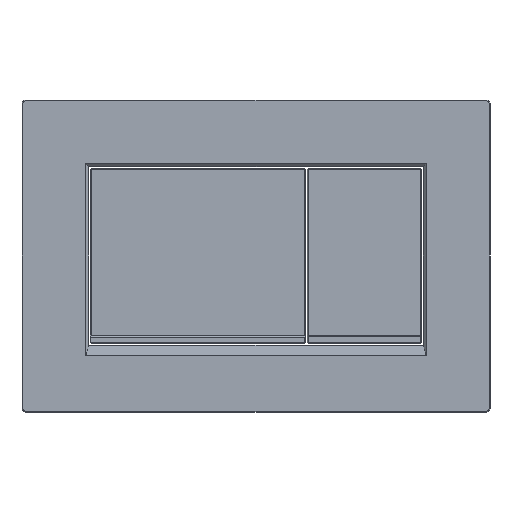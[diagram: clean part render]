
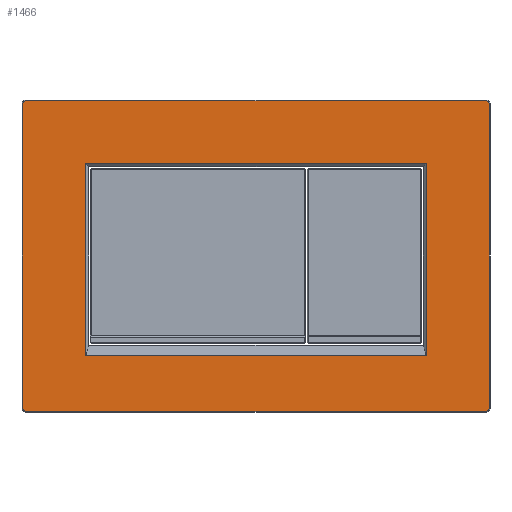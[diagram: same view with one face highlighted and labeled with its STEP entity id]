
A CAD part, front view. The second image highlights one B-rep face of the part: STEP entity #1466.
In plain terms, the highlighted planar face has unit normal (0, -1, 0).
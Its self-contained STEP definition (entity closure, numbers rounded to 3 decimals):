
#18=FACE_BOUND('',#555,.T.);
#22=PLANE('',#1595);
#96=LINE('',#2079,#272);
#98=LINE('',#2091,#274);
#100=LINE('',#2103,#276);
#102=LINE('',#2112,#278);
#110=LINE('',#2134,#286);
#111=LINE('',#2136,#287);
#112=LINE('',#2138,#288);
#113=LINE('',#2139,#289);
#272=VECTOR('',#1689,160.);
#274=VECTOR('',#1703,242.);
#276=VECTOR('',#1717,160.);
#278=VECTOR('',#1729,242.);
#286=VECTOR('',#1751,101.);
#287=VECTOR('',#1752,179.);
#288=VECTOR('',#1753,101.);
#289=VECTOR('',#1754,179.);
#467=FACE_OUTER_BOUND('',#554,.T.);
#554=EDGE_LOOP('',(#1014,#1015,#1016,#1017,#1018,#1019,#1020,#1021));
#555=EDGE_LOOP('',(#1022,#1023,#1024,#1025));
#632=CIRCLE('',#1567,1.5);
#638=CIRCLE('',#1575,1.5);
#642=CIRCLE('',#1581,1.5);
#646=CIRCLE('',#1587,1.5);
#652=VERTEX_POINT('',#2067);
#653=VERTEX_POINT('',#2069);
#655=VERTEX_POINT('',#2075);
#657=VERTEX_POINT('',#2081);
#659=VERTEX_POINT('',#2087);
#661=VERTEX_POINT('',#2093);
#663=VERTEX_POINT('',#2099);
#665=VERTEX_POINT('',#2105);
#672=VERTEX_POINT('',#2132);
#673=VERTEX_POINT('',#2133);
#674=VERTEX_POINT('',#2135);
#675=VERTEX_POINT('',#2137);
#771=EDGE_CURVE('',#652,#653,#632,.T.);
#776=EDGE_CURVE('',#653,#655,#96,.T.);
#779=EDGE_CURVE('',#655,#657,#638,.T.);
#782=EDGE_CURVE('',#657,#659,#98,.T.);
#785=EDGE_CURVE('',#659,#661,#642,.T.);
#788=EDGE_CURVE('',#661,#663,#100,.T.);
#791=EDGE_CURVE('',#663,#665,#646,.T.);
#793=EDGE_CURVE('',#665,#652,#102,.T.);
#803=EDGE_CURVE('',#672,#673,#110,.T.);
#804=EDGE_CURVE('',#674,#672,#111,.T.);
#805=EDGE_CURVE('',#675,#674,#112,.T.);
#806=EDGE_CURVE('',#673,#675,#113,.T.);
#1014=ORIENTED_EDGE('',*,*,#771,.F.);
#1015=ORIENTED_EDGE('',*,*,#793,.F.);
#1016=ORIENTED_EDGE('',*,*,#791,.F.);
#1017=ORIENTED_EDGE('',*,*,#788,.F.);
#1018=ORIENTED_EDGE('',*,*,#785,.F.);
#1019=ORIENTED_EDGE('',*,*,#782,.F.);
#1020=ORIENTED_EDGE('',*,*,#779,.F.);
#1021=ORIENTED_EDGE('',*,*,#776,.F.);
#1022=ORIENTED_EDGE('',*,*,#803,.F.);
#1023=ORIENTED_EDGE('',*,*,#804,.F.);
#1024=ORIENTED_EDGE('',*,*,#805,.F.);
#1025=ORIENTED_EDGE('',*,*,#806,.F.);
#1466=ADVANCED_FACE('',(#467,#18),#22,.T.);
#1567=AXIS2_PLACEMENT_3D('',#2070,#1678,#1679);
#1575=AXIS2_PLACEMENT_3D('',#2085,#1696,#1697);
#1581=AXIS2_PLACEMENT_3D('',#2097,#1710,#1711);
#1587=AXIS2_PLACEMENT_3D('',#2109,#1724,#1725);
#1595=AXIS2_PLACEMENT_3D('',#2131,#1749,#1750);
#1678=DIRECTION('center_axis',(0.,1.,0.));
#1679=DIRECTION('ref_axis',(0.707,0.,0.707));
#1689=DIRECTION('',(0.,0.,-1.));
#1696=DIRECTION('center_axis',(0.,1.,0.));
#1697=DIRECTION('ref_axis',(0.707,0.,-0.707));
#1703=DIRECTION('',(-1.,0.,0.));
#1710=DIRECTION('center_axis',(0.,1.,0.));
#1711=DIRECTION('ref_axis',(-0.707,0.,-0.707));
#1717=DIRECTION('',(0.,0.,1.));
#1724=DIRECTION('center_axis',(0.,1.,0.));
#1725=DIRECTION('ref_axis',(-0.707,0.,0.707));
#1729=DIRECTION('',(1.,0.,0.));
#1749=DIRECTION('center_axis',(0.,-1.,0.));
#1750=DIRECTION('ref_axis',(0.,0.,-1.));
#1751=DIRECTION('',(0.,0.,1.));
#1752=DIRECTION('',(1.,0.,0.));
#1753=DIRECTION('',(0.,0.,-1.));
#1754=DIRECTION('',(-1.,0.,0.));
#2067=CARTESIAN_POINT('',(121.,-12.,81.5));
#2069=CARTESIAN_POINT('',(122.5,-12.,80.));
#2070=CARTESIAN_POINT('Origin',(121.,-12.,80.));
#2075=CARTESIAN_POINT('',(122.5,-12.,-80.));
#2079=CARTESIAN_POINT('',(122.5,-12.,40.));
#2081=CARTESIAN_POINT('',(121.,-12.,-81.5));
#2085=CARTESIAN_POINT('Origin',(121.,-12.,-80.));
#2087=CARTESIAN_POINT('',(-121.,-12.,-81.5));
#2091=CARTESIAN_POINT('',(60.5,-12.,-81.5));
#2093=CARTESIAN_POINT('',(-122.5,-12.,-80.));
#2097=CARTESIAN_POINT('Origin',(-121.,-12.,-80.));
#2099=CARTESIAN_POINT('',(-122.5,-12.,80.));
#2103=CARTESIAN_POINT('',(-122.5,-12.,-40.));
#2105=CARTESIAN_POINT('',(-121.,-12.,81.5));
#2109=CARTESIAN_POINT('Origin',(-121.,-12.,80.));
#2112=CARTESIAN_POINT('',(-60.5,-12.,81.5));
#2131=CARTESIAN_POINT('Origin',(0.,-12.,0.));
#2132=CARTESIAN_POINT('',(89.5,-12.,-52.5));
#2133=CARTESIAN_POINT('',(89.5,-12.,48.5));
#2134=CARTESIAN_POINT('',(89.5,-12.,11.75));
#2135=CARTESIAN_POINT('',(-89.5,-12.,-52.5));
#2136=CARTESIAN_POINT('',(44.,-12.,-52.5));
#2137=CARTESIAN_POINT('',(-89.5,-12.,48.5));
#2138=CARTESIAN_POINT('',(-89.5,-12.,-11.75));
#2139=CARTESIAN_POINT('',(-44.,-12.,48.5));
